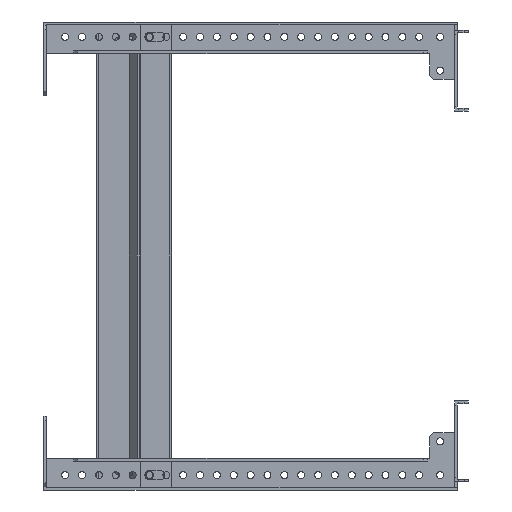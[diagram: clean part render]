
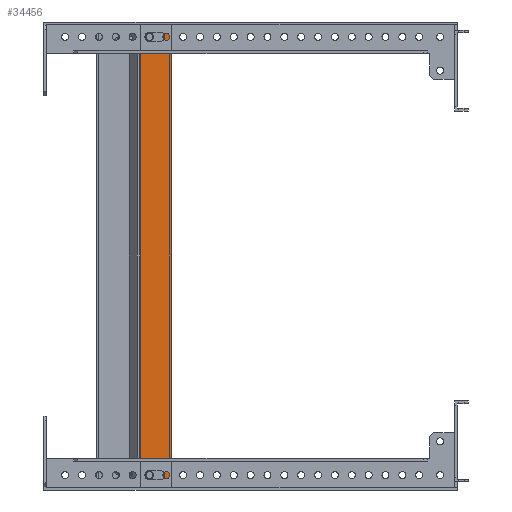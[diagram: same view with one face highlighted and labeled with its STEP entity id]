
A CAD part, front view. The second image highlights one B-rep face of the part: STEP entity #34456.
In plain terms, the highlighted planar face has unit normal (0, -1, 0).
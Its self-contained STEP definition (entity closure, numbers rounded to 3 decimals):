
#814 = AXIS2_PLACEMENT_3D ( 'NONE', #7019, #29050, #34491 ) ;
#856 = EDGE_CURVE ( 'NONE', #3233, #16390, #9573, .T. ) ;
#1642 = EDGE_LOOP ( 'NONE', ( #28221, #7518, #35778, #19257, #15605 ) ) ;
#2123 = CARTESIAN_POINT ( 'NONE',  ( 1120.27, -253.815, -159. ) ) ;
#2154 = VERTEX_POINT ( 'NONE', #26687 ) ;
#2172 = PLANE ( 'NONE',  #29007 ) ;
#2821 = VECTOR ( 'NONE', #19701, 1000. ) ;
#2945 = VERTEX_POINT ( 'NONE', #7485 ) ;
#2963 = VECTOR ( 'NONE', #22254, 1000. ) ;
#3233 = VERTEX_POINT ( 'NONE', #2123 ) ;
#3427 = VECTOR ( 'NONE', #21764, 1000. ) ;
#3665 = VERTEX_POINT ( 'NONE', #7896 ) ;
#3811 = AXIS2_PLACEMENT_3D ( 'NONE', #12786, #12606, #18057 ) ;
#4517 = CARTESIAN_POINT ( 'NONE',  ( 1112.27, -253.815, -162.5 ) ) ;
#4687 = CARTESIAN_POINT ( 'NONE',  ( 1105.77, -253.815, 172.5 ) ) ;
#5025 = VERTEX_POINT ( 'NONE', #13374 ) ;
#5424 = EDGE_CURVE ( 'NONE', #3665, #25388, #30348, .T. ) ;
#5521 = CARTESIAN_POINT ( 'NONE',  ( 1120.27, -253.815, 166. ) ) ;
#5566 = DIRECTION ( 'NONE',  ( -1., 0., 0. ) ) ;
#5578 = EDGE_CURVE ( 'NONE', #16390, #17229, #35249, .T. ) ;
#5663 = LINE ( 'NONE', #33831, #35871 ) ;
#6758 = EDGE_CURVE ( 'NONE', #27169, #26697, #5663, .T. ) ;
#6793 = ORIENTED_EDGE ( 'NONE', *, *, #32547, .T. ) ;
#7019 = CARTESIAN_POINT ( 'NONE',  ( 1120.27, -253.815, -162.5 ) ) ;
#7171 = CIRCLE ( 'NONE', #8904, 3.5 ) ;
#7303 = CARTESIAN_POINT ( 'NONE',  ( 1108.77, -253.815, 162.5 ) ) ;
#7389 = CARTESIAN_POINT ( 'NONE',  ( 1112.27, -253.815, -159. ) ) ;
#7485 = CARTESIAN_POINT ( 'NONE',  ( 1128.272, -253.815, 172.5 ) ) ;
#7518 = ORIENTED_EDGE ( 'NONE', *, *, #36015, .T. ) ;
#7625 = FACE_BOUND ( 'NONE', #24905, .T. ) ;
#7639 = LINE ( 'NONE', #22011, #16050 ) ;
#7896 = CARTESIAN_POINT ( 'NONE',  ( 1105.77, -253.815, -172.5 ) ) ;
#8265 = LINE ( 'NONE', #13404, #3427 ) ;
#8270 = DIRECTION ( 'NONE',  ( 0., 1., 0. ) ) ;
#8904 = AXIS2_PLACEMENT_3D ( 'NONE', #18393, #23279, #17834 ) ;
#8921 = VERTEX_POINT ( 'NONE', #33495 ) ;
#9014 = CIRCLE ( 'NONE', #13114, 3.5 ) ;
#9573 = LINE ( 'NONE', #7389, #15248 ) ;
#9900 = EDGE_CURVE ( 'NONE', #5025, #27672, #30634, .T. ) ;
#10745 = EDGE_CURVE ( 'NONE', #26697, #34912, #9014, .T. ) ;
#12606 = DIRECTION ( 'NONE',  ( 0., 1., 0. ) ) ;
#12786 = CARTESIAN_POINT ( 'NONE',  ( 1120.27, -253.815, 162.5 ) ) ;
#13030 = CIRCLE ( 'NONE', #814, 3.5 ) ;
#13114 = AXIS2_PLACEMENT_3D ( 'NONE', #19608, #33416, #33937 ) ;
#13374 = CARTESIAN_POINT ( 'NONE',  ( 1112.27, -253.815, -166. ) ) ;
#13404 = CARTESIAN_POINT ( 'NONE',  ( 1150.113, -253.815, -172.5 ) ) ;
#13622 = ORIENTED_EDGE ( 'NONE', *, *, #27332, .F. ) ;
#13761 = ORIENTED_EDGE ( 'NONE', *, *, #856, .F. ) ;
#13910 = ORIENTED_EDGE ( 'NONE', *, *, #33244, .F. ) ;
#14129 = VECTOR ( 'NONE', #35061, 1000. ) ;
#14282 = CIRCLE ( 'NONE', #3811, 3.5 ) ;
#14339 = EDGE_LOOP ( 'NONE', ( #13622, #23060, #13910, #6793 ) ) ;
#15248 = VECTOR ( 'NONE', #18502, 1000. ) ;
#15605 = ORIENTED_EDGE ( 'NONE', *, *, #6758, .T. ) ;
#15974 = DIRECTION ( 'NONE',  ( 0., -1., 0. ) ) ;
#16050 = VECTOR ( 'NONE', #32930, 1000. ) ;
#16390 = VERTEX_POINT ( 'NONE', #29795 ) ;
#16548 = CARTESIAN_POINT ( 'NONE',  ( 1105.77, -253.815, -172.5 ) ) ;
#17229 = VERTEX_POINT ( 'NONE', #29543 ) ;
#17663 = AXIS2_PLACEMENT_3D ( 'NONE', #19582, #30480, #5566 ) ;
#17834 = DIRECTION ( 'NONE',  ( -1., 0., 0. ) ) ;
#18057 = DIRECTION ( 'NONE',  ( -1., 0., 0. ) ) ;
#18393 = CARTESIAN_POINT ( 'NONE',  ( 1112.27, -253.815, -162.5 ) ) ;
#18502 = DIRECTION ( 'NONE',  ( -1., 0., 0. ) ) ;
#18670 = ORIENTED_EDGE ( 'NONE', *, *, #5578, .F. ) ;
#19257 = ORIENTED_EDGE ( 'NONE', *, *, #22977, .T. ) ;
#19428 = CIRCLE ( 'NONE', #17663, 3.5 ) ;
#19482 = ORIENTED_EDGE ( 'NONE', *, *, #9900, .F. ) ;
#19582 = CARTESIAN_POINT ( 'NONE',  ( 1112.27, -253.815, 162.5 ) ) ;
#19584 = EDGE_CURVE ( 'NONE', #27672, #3233, #13030, .T. ) ;
#19608 = CARTESIAN_POINT ( 'NONE',  ( 1112.27, -253.815, 162.5 ) ) ;
#19701 = DIRECTION ( 'NONE',  ( 0., 0., 1. ) ) ;
#20285 = ORIENTED_EDGE ( 'NONE', *, *, #19584, .F. ) ;
#20924 = FACE_OUTER_BOUND ( 'NONE', #14339, .T. ) ;
#21764 = DIRECTION ( 'NONE',  ( -1., 0., 0. ) ) ;
#22011 = CARTESIAN_POINT ( 'NONE',  ( 1112.27, -253.815, 166. ) ) ;
#22254 = DIRECTION ( 'NONE',  ( 1., 0., 0. ) ) ;
#22605 = CARTESIAN_POINT ( 'NONE',  ( 1105.77, -253.815, 172.5 ) ) ;
#22977 = EDGE_CURVE ( 'NONE', #26898, #27169, #14282, .T. ) ;
#23060 = ORIENTED_EDGE ( 'NONE', *, *, #5424, .F. ) ;
#23199 = CARTESIAN_POINT ( 'NONE',  ( 1112.27, -253.815, 159. ) ) ;
#23279 = DIRECTION ( 'NONE',  ( 0., -1., 0. ) ) ;
#24214 = AXIS2_PLACEMENT_3D ( 'NONE', #4517, #15974, #32523 ) ;
#24365 = ORIENTED_EDGE ( 'NONE', *, *, #25975, .F. ) ;
#24856 = CARTESIAN_POINT ( 'NONE',  ( 1150.737, -253.815, 0. ) ) ;
#24905 = EDGE_LOOP ( 'NONE', ( #19482, #24365, #18670, #13761, #20285 ) ) ;
#25072 = DIRECTION ( 'NONE',  ( 0., 0., 1. ) ) ;
#25388 = VERTEX_POINT ( 'NONE', #22605 ) ;
#25650 = DIRECTION ( 'NONE',  ( -1., 0., 0. ) ) ;
#25975 = EDGE_CURVE ( 'NONE', #17229, #5025, #7171, .T. ) ;
#26687 = CARTESIAN_POINT ( 'NONE',  ( 1112.27, -253.815, 166. ) ) ;
#26697 = VERTEX_POINT ( 'NONE', #23199 ) ;
#26898 = VERTEX_POINT ( 'NONE', #5521 ) ;
#26919 = CARTESIAN_POINT ( 'NONE',  ( 1120.27, -253.815, 159. ) ) ;
#27169 = VERTEX_POINT ( 'NONE', #26919 ) ;
#27332 = EDGE_CURVE ( 'NONE', #25388, #2945, #29065, .T. ) ;
#27672 = VERTEX_POINT ( 'NONE', #35380 ) ;
#28221 = ORIENTED_EDGE ( 'NONE', *, *, #10745, .T. ) ;
#29007 = AXIS2_PLACEMENT_3D ( 'NONE', #24856, #8270, #35946 ) ;
#29050 = DIRECTION ( 'NONE',  ( 0., -1., 0. ) ) ;
#29065 = LINE ( 'NONE', #4687, #14129 ) ;
#29543 = CARTESIAN_POINT ( 'NONE',  ( 1108.77, -253.815, -162.5 ) ) ;
#29795 = CARTESIAN_POINT ( 'NONE',  ( 1112.27, -253.815, -159. ) ) ;
#30348 = LINE ( 'NONE', #16548, #32337 ) ;
#30421 = LINE ( 'NONE', #30617, #2821 ) ;
#30480 = DIRECTION ( 'NONE',  ( 0., 1., 0. ) ) ;
#30617 = CARTESIAN_POINT ( 'NONE',  ( 1128.272, -253.815, -175.859 ) ) ;
#30634 = LINE ( 'NONE', #35915, #2963 ) ;
#30875 = EDGE_CURVE ( 'NONE', #2154, #26898, #7639, .T. ) ;
#32337 = VECTOR ( 'NONE', #25072, 1000. ) ;
#32523 = DIRECTION ( 'NONE',  ( -1., 0., 0. ) ) ;
#32547 = EDGE_CURVE ( 'NONE', #8921, #2945, #30421, .T. ) ;
#32930 = DIRECTION ( 'NONE',  ( 1., 0., 0. ) ) ;
#33244 = EDGE_CURVE ( 'NONE', #8921, #3665, #8265, .T. ) ;
#33416 = DIRECTION ( 'NONE',  ( 0., 1., 0. ) ) ;
#33495 = CARTESIAN_POINT ( 'NONE',  ( 1128.272, -253.815, -172.5 ) ) ;
#33831 = CARTESIAN_POINT ( 'NONE',  ( 1112.27, -253.815, 159. ) ) ;
#33937 = DIRECTION ( 'NONE',  ( -1., 0., 0. ) ) ;
#34456 = ADVANCED_FACE ( 'NONE', ( #20924, #7625, #34925 ), #2172, .F. ) ;
#34491 = DIRECTION ( 'NONE',  ( -1., 0., 0. ) ) ;
#34912 = VERTEX_POINT ( 'NONE', #7303 ) ;
#34925 = FACE_BOUND ( 'NONE', #1642, .T. ) ;
#35061 = DIRECTION ( 'NONE',  ( 1., 0., 0. ) ) ;
#35249 = CIRCLE ( 'NONE', #24214, 3.5 ) ;
#35380 = CARTESIAN_POINT ( 'NONE',  ( 1120.27, -253.815, -166. ) ) ;
#35778 = ORIENTED_EDGE ( 'NONE', *, *, #30875, .T. ) ;
#35871 = VECTOR ( 'NONE', #25650, 1000. ) ;
#35915 = CARTESIAN_POINT ( 'NONE',  ( 1112.27, -253.815, -166. ) ) ;
#35946 = DIRECTION ( 'NONE',  ( 1., 0., 0. ) ) ;
#36015 = EDGE_CURVE ( 'NONE', #34912, #2154, #19428, .T. ) ;
